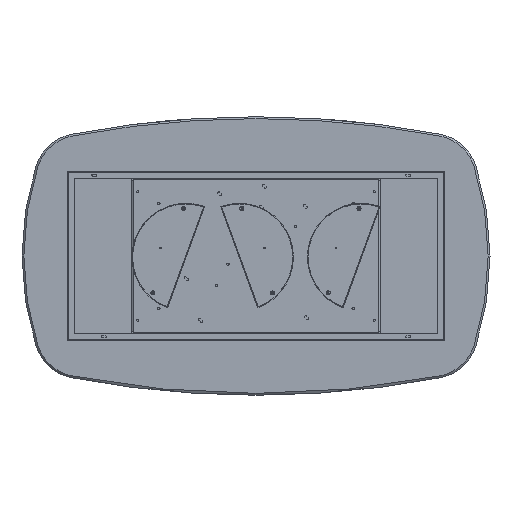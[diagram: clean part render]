
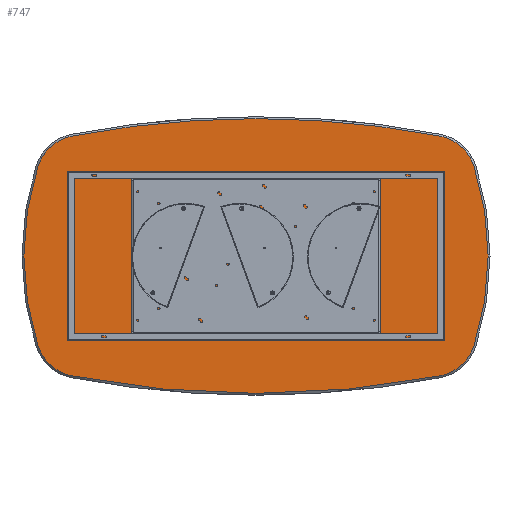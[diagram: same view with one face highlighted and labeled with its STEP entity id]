
A CAD part, front view. The second image highlights one B-rep face of the part: STEP entity #747.
In plain terms, the highlighted planar face has unit normal (0, -1, 0).
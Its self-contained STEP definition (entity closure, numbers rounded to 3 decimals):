
#71 = CARTESIAN_POINT ( 'NONE',  ( -130., 0., 1802.5 ) ) ;
#260 = DIRECTION ( 'NONE',  ( 0., 0., 1. ) ) ;
#387 = ORIENTED_EDGE ( 'NONE', *, *, #18503, .T. ) ;
#516 = CARTESIAN_POINT ( 'NONE',  ( 749.201, 0., -324.211 ) ) ;
#747 = ADVANCED_FACE ( 'NONE', ( #7697 ), #10544, .F. ) ;
#843 = CIRCLE ( 'NONE', #19302, 192. ) ;
#1207 = DIRECTION ( 'NONE',  ( 0., -1., 0. ) ) ;
#1613 = ORIENTED_EDGE ( 'NONE', *, *, #4188, .T. ) ;
#1954 = ORIENTED_EDGE ( 'NONE', *, *, #5501, .T. ) ;
#1988 = DIRECTION ( 'NONE',  ( 0., 0., 1. ) ) ;
#2396 = CARTESIAN_POINT ( 'NONE',  ( 932., 0., -382.936 ) ) ;
#2462 = CIRCLE ( 'NONE', #8089, 4192. ) ;
#2476 = CARTESIAN_POINT ( 'NONE',  ( -749.201, 0., -324.211 ) ) ;
#2496 = DIRECTION ( 'NONE',  ( 0., -1., 0. ) ) ;
#2519 = EDGE_CURVE ( 'NONE', #2702, #9043, #11005, .T. ) ;
#2554 = CARTESIAN_POINT ( 'NONE',  ( 785.163, 0., -512.813 ) ) ;
#2667 = VERTEX_POINT ( 'NONE', #14910 ) ;
#2702 = VERTEX_POINT ( 'NONE', #5894 ) ;
#2770 = CIRCLE ( 'NONE', #10285, 1252. ) ;
#2965 = DIRECTION ( 'NONE',  ( 0., -1., 0. ) ) ;
#3384 = CARTESIAN_POINT ( 'NONE',  ( -785.163, 0., 512.813 ) ) ;
#3787 = VERTEX_POINT ( 'NONE', #14136 ) ;
#3808 = VERTEX_POINT ( 'NONE', #2396 ) ;
#4144 = DIRECTION ( 'NONE',  ( 0., 0., 1. ) ) ;
#4188 = EDGE_CURVE ( 'NONE', #9043, #3808, #17321, .T. ) ;
#4545 = CARTESIAN_POINT ( 'NONE',  ( 0., 0., 587. ) ) ;
#4828 = CARTESIAN_POINT ( 'NONE',  ( -260., 0., 0. ) ) ;
#5008 = VERTEX_POINT ( 'NONE', #3384 ) ;
#5500 = VERTEX_POINT ( 'NONE', #16774 ) ;
#5501 = EDGE_CURVE ( 'NONE', #3808, #2667, #17655, .T. ) ;
#5583 = DIRECTION ( 'NONE',  ( 0., -1., 0. ) ) ;
#5697 = DIRECTION ( 'NONE',  ( 0., 0., 1. ) ) ;
#5788 = AXIS2_PLACEMENT_3D ( 'NONE', #71, #8984, #260 ) ;
#5894 = CARTESIAN_POINT ( 'NONE',  ( -785.163, 0., -512.813 ) ) ;
#5895 = ORIENTED_EDGE ( 'NONE', *, *, #2519, .T. ) ;
#5988 = ORIENTED_EDGE ( 'NONE', *, *, #15755, .T. ) ;
#6227 = ORIENTED_EDGE ( 'NONE', *, *, #7946, .T. ) ;
#6449 = CIRCLE ( 'NONE', #13035, 192. ) ;
#6699 = AXIS2_PLACEMENT_3D ( 'NONE', #516, #14319, #1988 ) ;
#7077 = CARTESIAN_POINT ( 'NONE',  ( 0., 0., -3605. ) ) ;
#7258 = DIRECTION ( 'NONE',  ( 0., 0., 1. ) ) ;
#7697 = FACE_OUTER_BOUND ( 'NONE', #12299, .T. ) ;
#7946 = EDGE_CURVE ( 'NONE', #5008, #5500, #843, .T. ) ;
#8089 = AXIS2_PLACEMENT_3D ( 'NONE', #7077, #1207, #5697 ) ;
#8984 = DIRECTION ( 'NONE',  ( 0., 1., 0. ) ) ;
#9043 = VERTEX_POINT ( 'NONE', #2554 ) ;
#9342 = DIRECTION ( 'NONE',  ( 0., 0., 1. ) ) ;
#9878 = EDGE_CURVE ( 'NONE', #5500, #11032, #2770, .T. ) ;
#10285 = AXIS2_PLACEMENT_3D ( 'NONE', #16616, #12195, #18183 ) ;
#10544 = PLANE ( 'NONE',  #5788 ) ;
#10568 = DIRECTION ( 'NONE',  ( 0., -1., 0. ) ) ;
#11005 = CIRCLE ( 'NONE', #13818, 4192. ) ;
#11032 = VERTEX_POINT ( 'NONE', #14700 ) ;
#11281 = CIRCLE ( 'NONE', #13769, 4192. ) ;
#11782 = CARTESIAN_POINT ( 'NONE',  ( 0., 0., 3605. ) ) ;
#11805 = ORIENTED_EDGE ( 'NONE', *, *, #13007, .T. ) ;
#12195 = DIRECTION ( 'NONE',  ( 0., -1., 0. ) ) ;
#12299 = EDGE_LOOP ( 'NONE', ( #5988, #5895, #1613, #1954, #11805, #14452, #387, #6227, #14119 ) ) ;
#12625 = VERTEX_POINT ( 'NONE', #4545 ) ;
#12974 = CARTESIAN_POINT ( 'NONE',  ( 0., 0., -3605. ) ) ;
#13007 = EDGE_CURVE ( 'NONE', #2667, #3787, #6449, .T. ) ;
#13035 = AXIS2_PLACEMENT_3D ( 'NONE', #19135, #2965, #13149 ) ;
#13149 = DIRECTION ( 'NONE',  ( 0., 0., 1. ) ) ;
#13435 = AXIS2_PLACEMENT_3D ( 'NONE', #2476, #5583, #7258 ) ;
#13594 = CARTESIAN_POINT ( 'NONE',  ( -749.201, 0., 324.211 ) ) ;
#13769 = AXIS2_PLACEMENT_3D ( 'NONE', #12974, #14142, #18955 ) ;
#13818 = AXIS2_PLACEMENT_3D ( 'NONE', #11782, #2496, #4144 ) ;
#14119 = ORIENTED_EDGE ( 'NONE', *, *, #9878, .T. ) ;
#14136 = CARTESIAN_POINT ( 'NONE',  ( 785.163, 0., 512.813 ) ) ;
#14142 = DIRECTION ( 'NONE',  ( 0., -1., 0. ) ) ;
#14319 = DIRECTION ( 'NONE',  ( 0., -1., 0. ) ) ;
#14452 = ORIENTED_EDGE ( 'NONE', *, *, #14514, .T. ) ;
#14514 = EDGE_CURVE ( 'NONE', #3787, #12625, #2462, .T. ) ;
#14700 = CARTESIAN_POINT ( 'NONE',  ( -932., 0., -382.936 ) ) ;
#14910 = CARTESIAN_POINT ( 'NONE',  ( 932., 0., 382.936 ) ) ;
#15307 = DIRECTION ( 'NONE',  ( 0., -1., 0. ) ) ;
#15755 = EDGE_CURVE ( 'NONE', #11032, #2702, #18136, .T. ) ;
#15770 = AXIS2_PLACEMENT_3D ( 'NONE', #4828, #15307, #9342 ) ;
#16616 = CARTESIAN_POINT ( 'NONE',  ( 260., 0., 0. ) ) ;
#16731 = DIRECTION ( 'NONE',  ( 0., 0., 1. ) ) ;
#16774 = CARTESIAN_POINT ( 'NONE',  ( -932., 0., 382.936 ) ) ;
#17321 = CIRCLE ( 'NONE', #6699, 192. ) ;
#17655 = CIRCLE ( 'NONE', #15770, 1252. ) ;
#18136 = CIRCLE ( 'NONE', #13435, 192. ) ;
#18183 = DIRECTION ( 'NONE',  ( 0., 0., 1. ) ) ;
#18503 = EDGE_CURVE ( 'NONE', #12625, #5008, #11281, .T. ) ;
#18955 = DIRECTION ( 'NONE',  ( 0., 0., 1. ) ) ;
#19135 = CARTESIAN_POINT ( 'NONE',  ( 749.201, 0., 324.211 ) ) ;
#19302 = AXIS2_PLACEMENT_3D ( 'NONE', #13594, #10568, #16731 ) ;
